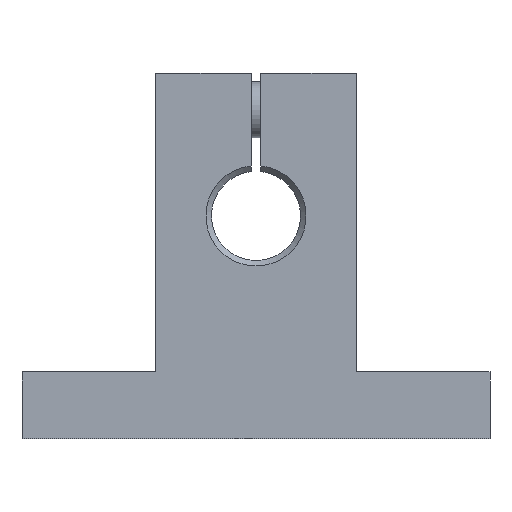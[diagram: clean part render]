
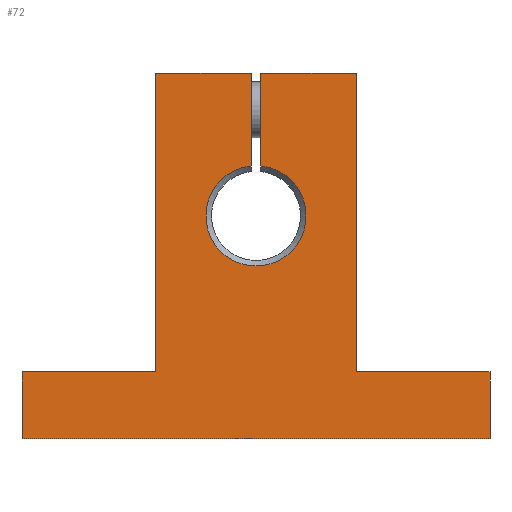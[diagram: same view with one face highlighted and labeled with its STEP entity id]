
A CAD part, front view. The second image highlights one B-rep face of the part: STEP entity #72.
In plain terms, the highlighted planar face has unit normal (0, -1, 0).
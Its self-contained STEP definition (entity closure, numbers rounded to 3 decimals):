
#72 = ADVANCED_FACE( '', ( #170 ), #171, .T. );
#170 = FACE_OUTER_BOUND( '', #306, .T. );
#171 = PLANE( '', #307 );
#306 = EDGE_LOOP( '', ( #472, #473, #474, #475, #476, #477, #478, #479, #480, #481, #482, #483 ) );
#307 = AXIS2_PLACEMENT_3D( '', #484, #485, #486 );
#472 = ORIENTED_EDGE( '', *, *, #717, .F. );
#473 = ORIENTED_EDGE( '', *, *, #748, .T. );
#474 = ORIENTED_EDGE( '', *, *, #749, .F. );
#475 = ORIENTED_EDGE( '', *, *, #750, .F. );
#476 = ORIENTED_EDGE( '', *, *, #751, .F. );
#477 = ORIENTED_EDGE( '', *, *, #752, .F. );
#478 = ORIENTED_EDGE( '', *, *, #753, .F. );
#479 = ORIENTED_EDGE( '', *, *, #754, .F. );
#480 = ORIENTED_EDGE( '', *, *, #755, .F. );
#481 = ORIENTED_EDGE( '', *, *, #756, .F. );
#482 = ORIENTED_EDGE( '', *, *, #757, .F. );
#483 = ORIENTED_EDGE( '', *, *, #720, .F. );
#484 = CARTESIAN_POINT( '', ( 0., -7., 0. ) );
#485 = DIRECTION( '', ( 0., -1., 0. ) );
#486 = DIRECTION( '', ( 1., 0., 0. ) );
#717 = EDGE_CURVE( '', #834, #836, #837, .T. );
#720 = EDGE_CURVE( '', #836, #840, #841, .T. );
#748 = EDGE_CURVE( '', #834, #889, #890, .F. );
#749 = EDGE_CURVE( '', #891, #889, #892, .T. );
#750 = EDGE_CURVE( '', #893, #891, #894, .T. );
#751 = EDGE_CURVE( '', #895, #893, #896, .T. );
#752 = EDGE_CURVE( '', #897, #895, #898, .T. );
#753 = EDGE_CURVE( '', #899, #897, #900, .T. );
#754 = EDGE_CURVE( '', #901, #899, #902, .T. );
#755 = EDGE_CURVE( '', #903, #901, #904, .T. );
#756 = EDGE_CURVE( '', #905, #903, #906, .T. );
#757 = EDGE_CURVE( '', #840, #905, #907, .T. );
#834 = VERTEX_POINT( '', #1007 );
#836 = VERTEX_POINT( '', #1012 );
#837 = LINE( '', #1013, #1014 );
#840 = VERTEX_POINT( '', #1018 );
#841 = LINE( '', #1019, #1020 );
#889 = VERTEX_POINT( '', #1085 );
#890 = CIRCLE( '', #1086, 4.5 );
#891 = VERTEX_POINT( '', #1087 );
#892 = LINE( '', #1088, #1089 );
#893 = VERTEX_POINT( '', #1090 );
#894 = LINE( '', #1091, #1092 );
#895 = VERTEX_POINT( '', #1093 );
#896 = LINE( '', #1094, #1095 );
#897 = VERTEX_POINT( '', #1096 );
#898 = LINE( '', #1097, #1098 );
#899 = VERTEX_POINT( '', #1099 );
#900 = LINE( '', #1100, #1101 );
#901 = VERTEX_POINT( '', #1102 );
#902 = LINE( '', #1103, #1104 );
#903 = VERTEX_POINT( '', #1105 );
#904 = LINE( '', #1106, #1107 );
#905 = VERTEX_POINT( '', #1108 );
#906 = LINE( '', #1109, #1110 );
#907 = LINE( '', #1111, #1112 );
#1007 = CARTESIAN_POINT( '', ( 0.42, -7., 4.48 ) );
#1012 = CARTESIAN_POINT( '', ( 0.42, -7., 12.8 ) );
#1013 = CARTESIAN_POINT( '', ( 0.42, -7., 12.8 ) );
#1014 = VECTOR( '', #1229, 1000. );
#1018 = CARTESIAN_POINT( '', ( 9., -7., 12.8 ) );
#1019 = CARTESIAN_POINT( '', ( 9., -7., 12.8 ) );
#1020 = VECTOR( '', #1231, 1000. );
#1085 = CARTESIAN_POINT( '', ( -0.42, -7., 4.48 ) );
#1086 = AXIS2_PLACEMENT_3D( '', #1264, #1265, #1266 );
#1087 = CARTESIAN_POINT( '', ( -0.42, -7., 12.8 ) );
#1088 = CARTESIAN_POINT( '', ( -0.42, -7., 4.982 ) );
#1089 = VECTOR( '', #1267, 1000. );
#1090 = CARTESIAN_POINT( '', ( -9., -7., 12.8 ) );
#1091 = CARTESIAN_POINT( '', ( -0.42, -7., 12.8 ) );
#1092 = VECTOR( '', #1268, 1000. );
#1093 = CARTESIAN_POINT( '', ( -9., -7., -14. ) );
#1094 = CARTESIAN_POINT( '', ( -9., -7., 12.8 ) );
#1095 = VECTOR( '', #1269, 1000. );
#1096 = CARTESIAN_POINT( '', ( -21., -7., -14. ) );
#1097 = CARTESIAN_POINT( '', ( -9., -7., -14. ) );
#1098 = VECTOR( '', #1270, 1000. );
#1099 = CARTESIAN_POINT( '', ( -21., -7., -20. ) );
#1100 = CARTESIAN_POINT( '', ( -21., -7., -14. ) );
#1101 = VECTOR( '', #1271, 1000. );
#1102 = CARTESIAN_POINT( '', ( 21., -7., -20. ) );
#1103 = CARTESIAN_POINT( '', ( -21., -7., -20. ) );
#1104 = VECTOR( '', #1272, 1000. );
#1105 = CARTESIAN_POINT( '', ( 21., -7., -14. ) );
#1106 = CARTESIAN_POINT( '', ( 21., -7., -20. ) );
#1107 = VECTOR( '', #1273, 1000. );
#1108 = CARTESIAN_POINT( '', ( 9., -7., -14. ) );
#1109 = CARTESIAN_POINT( '', ( 21., -7., -14. ) );
#1110 = VECTOR( '', #1274, 1000. );
#1111 = CARTESIAN_POINT( '', ( 9., -7., -14. ) );
#1112 = VECTOR( '', #1275, 1000. );
#1229 = DIRECTION( '', ( 0., 0., 1. ) );
#1231 = DIRECTION( '', ( 1., 0., 0. ) );
#1264 = CARTESIAN_POINT( '', ( 0., -7., 0. ) );
#1265 = DIRECTION( '', ( 0., -1., 0. ) );
#1266 = DIRECTION( '', ( 0., 0., -1. ) );
#1267 = DIRECTION( '', ( 0., 0., -1. ) );
#1268 = DIRECTION( '', ( 1., 0., 0. ) );
#1269 = DIRECTION( '', ( 0., 0., 1. ) );
#1270 = DIRECTION( '', ( 1., 0., 0. ) );
#1271 = DIRECTION( '', ( 0., 0., 1. ) );
#1272 = DIRECTION( '', ( -1., 0., 0. ) );
#1273 = DIRECTION( '', ( 0., 0., -1. ) );
#1274 = DIRECTION( '', ( 1., 0., 0. ) );
#1275 = DIRECTION( '', ( 0., 0., -1. ) );
